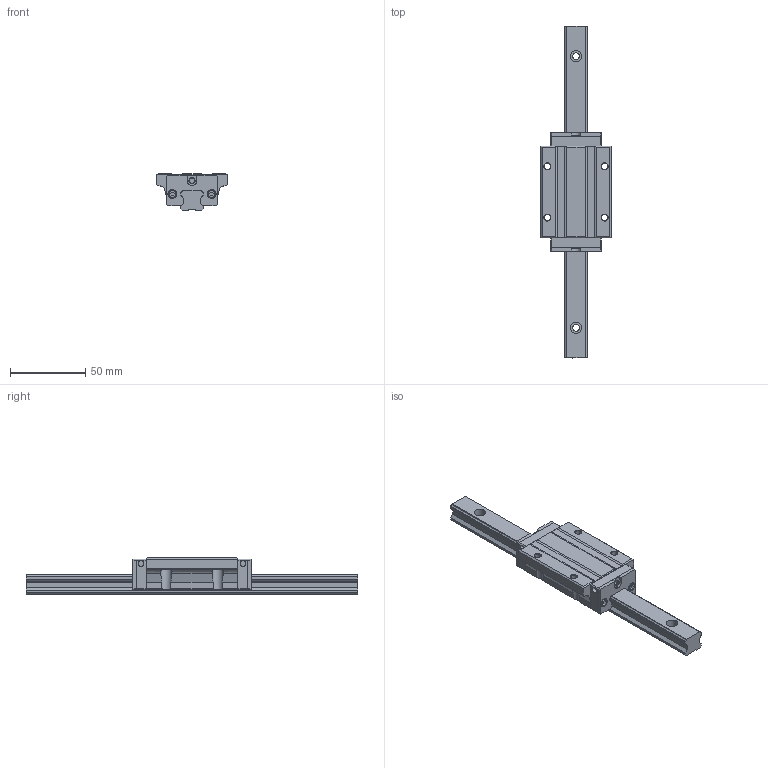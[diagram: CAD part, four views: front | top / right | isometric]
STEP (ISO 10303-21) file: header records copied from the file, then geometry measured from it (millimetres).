
FILE_DESCRIPTION( ( 'Unknown' ), '1' );
FILE_NAME( 'C:/Documents and Settings/c/官帕 拳搁/15/SBI 15 FLL.stp', 'Unknown', ( 'Unknown' ), ( 'Unknown' ), 'XStep 1.0', 'Unknown', ' ' );
FILE_SCHEMA( ( 'automotive_design' ) );
Length unit declared in the file: millimetre
Products named in the file (7): Assem1; SBI-15FLL BLOCK; RAIL
Bounding box: 47 x 220 x 24 mm (x, y, z)
Volume: 161514 mm3; surface area: 64117.1 mm2
Topology: 12 solids, 12 shells, 726 faces, 1962 edges, 1312 vertices
Faces by surface type: plane 560, cylinder 124, extrusion 26, cone 8, torus 8
Full cylindrical faces by diameter (mm): 3.4 x8, 3.5 x4, 3.818 x8, 4.1 x4, 4.134 x8, 4.5 x8, 5.5 x8, 6 x8, 7.5 x8
Entity records: 11990 total; most frequent: CARTESIAN_POINT 2500, ORIENTED_EDGE 1846, DIRECTION 1760, EDGE_CURVE 923, VECTOR 742, LINE 729, VERTEX_POINT 638, AXIS2_PLACEMENT_3D 509
